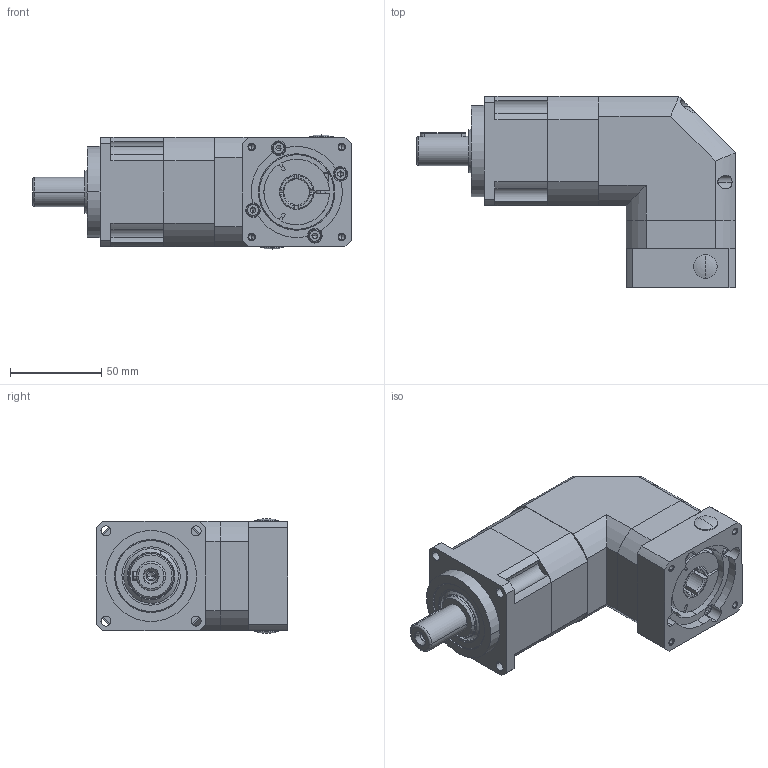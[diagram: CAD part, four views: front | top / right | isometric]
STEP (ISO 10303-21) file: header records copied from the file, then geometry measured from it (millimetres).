
FILE_DESCRIPTION (( 'STEP AP203' ), '1' );
FILE_NAME ('PHFZ060-L2-14-50-70-M4.STEP', '2020-05-29T07:42:25', ( 'ylmfeng' ), ( 'ylmfeng.com' ), 'SwSTEP 2.0', 'SolidWorks 2014', '' );
FILE_SCHEMA (( 'CONFIG_CONTROL_DESIGN' ));
Length unit declared in the file: millimetre
Products named in the file (1): PHFZ060-L2-14-50-70-M4
Bounding box: 175 x 105 x 63 mm (x, y, z)
Volume: 565338.3 mm3; surface area: 105185.2 mm2
Topology: 22 solids, 23 shells, 672 faces, 1668 edges, 1027 vertices
Faces by surface type: plane 267, cylinder 225, cone 108, torus 44, bspline 28
Entity records: 21107 total; most frequent: CARTESIAN_POINT 5080, DIRECTION 3467, ORIENTED_EDGE 3240, EDGE_CURVE 1620, AXIS2_PLACEMENT_3D 1349, VERTEX_POINT 1027, VECTOR 769, LINE 769
